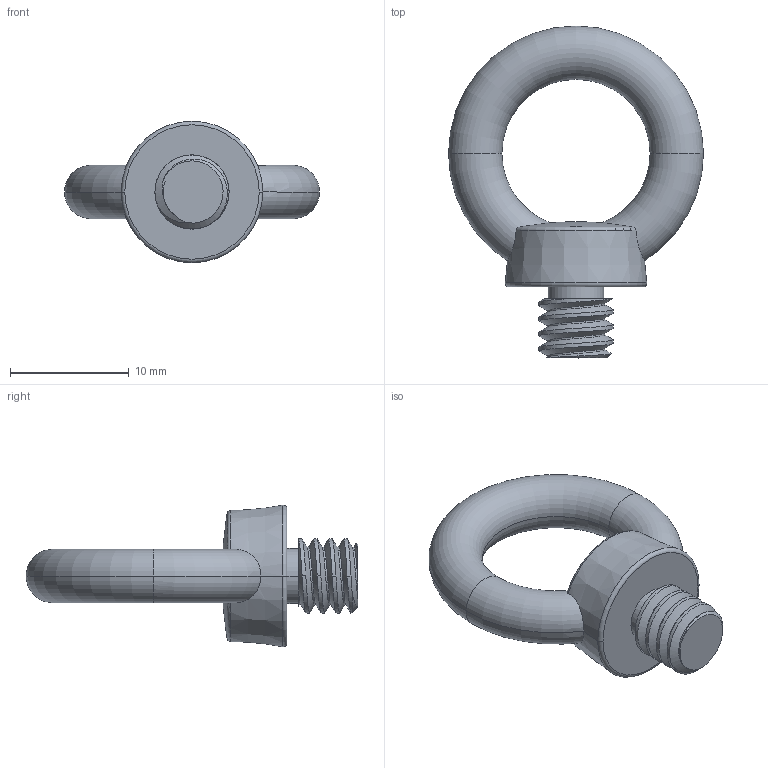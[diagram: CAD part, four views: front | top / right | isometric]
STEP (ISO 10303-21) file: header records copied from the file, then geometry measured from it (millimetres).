
FILE_DESCRIPTION (( 'STEP AP214' ), '1' );
FILE_NAME ('AST-EBLT-1-4.STEP', '2025-09-25T07:16:19', ( '' ), ( '' ), 'SwSTEP 2.0', 'SolidWorks 2016', '' );
FILE_SCHEMA (( 'AUTOMOTIVE_DESIGN' ));
Length unit declared in the file: millimetre
Products named in the file (1): AST-EBLT-1-4
Bounding box: 21.5 x 28 x 11.94 mm (x, y, z)
Volume: 1364.5 mm3; surface area: 1130 mm2
Topology: 1 solids, 1 shells, 31 faces, 80 edges, 49 vertices
Faces by surface type: torus 12, cylinder 10, cone 3, plane 3, bspline 3
Entity records: 2210 total; most frequent: CARTESIAN_POINT 1500, ORIENTED_EDGE 156, DIRECTION 127, EDGE_CURVE 78, AXIS2_PLACEMENT_3D 58, VERTEX_POINT 49, EDGE_LOOP 33, FACE_OUTER_BOUND 31
